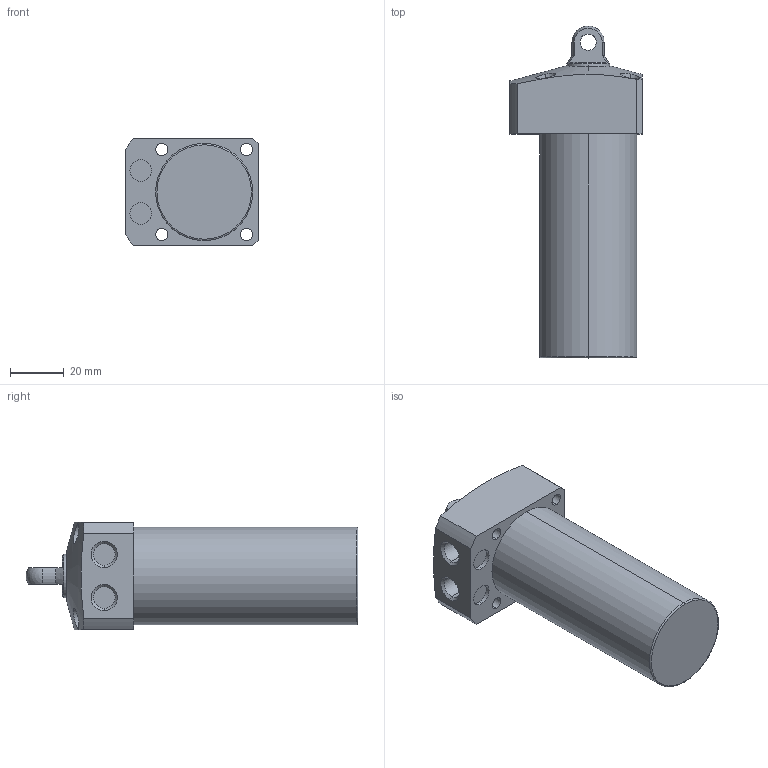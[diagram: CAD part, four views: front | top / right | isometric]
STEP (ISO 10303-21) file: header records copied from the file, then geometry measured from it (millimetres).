
FILE_DESCRIPTION (( 'STEP AP203' ), '1' );
FILE_NAME ('CLL036-CP-060.STEP', '2017-05-17T06:23:11', ( '' ), ( '' ), 'SwSTEP 2.0', 'SolidWorks 2015', '' );
FILE_SCHEMA (( 'CONFIG_CONTROL_DESIGN' ));
Length unit declared in the file: millimetre
Products named in the file (1): CLL036-CP-060
Bounding box: 49 x 123 x 40 mm (x, y, z)
Volume: 125872.4 mm3; surface area: 19434.9 mm2
Topology: 1 solids, 1 shells, 67 faces, 162 edges, 105 vertices
Faces by surface type: cylinder 34, plane 21, cone 8, sphere 2, torus 2
Entity records: 2347 total; most frequent: CARTESIAN_POINT 663, DIRECTION 354, ORIENTED_EDGE 316, EDGE_CURVE 158, AXIS2_PLACEMENT_3D 148, VERTEX_POINT 103, EDGE_LOOP 87, CIRCLE 80
